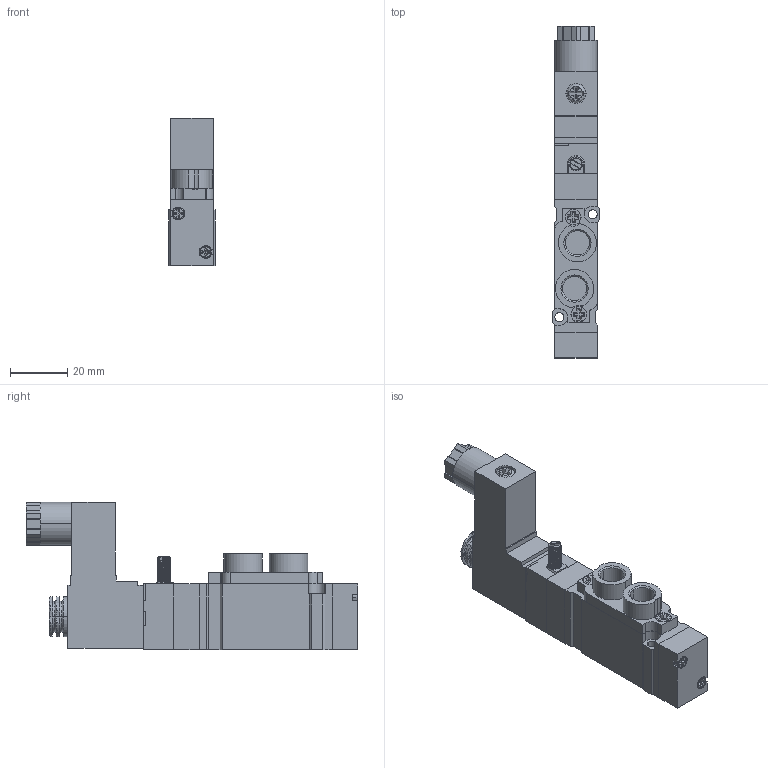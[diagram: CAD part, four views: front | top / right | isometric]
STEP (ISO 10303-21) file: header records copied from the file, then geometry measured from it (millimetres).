
FILE_DESCRIPTION(('STEP AP214'),'1');
FILE_NAME('V20E140V2.stp','2020-09-08T14:10:28',(' '),(' '),'Spatial InterOp 3D',' ',' ');
FILE_SCHEMA(('automotive_design'));
Length unit declared in the file: millimetre
Products named in the file (7): V20E140V2; V20-6; V20-5; V20-1; V20-4; V20-2; V20-3
Assembly tree (6 placements, depth 2):
  V20E140V2
    V20-6
    V20-5
    V20-1
    V20-4
    V20-2
    V20-3
Bounding box: 16.2 x 116.1 x 51.5 mm (x, y, z)
Volume: 43489.5 mm3; surface area: 22318.3 mm2
Topology: 12 solids, 12 shells, 704 faces, 1832 edges, 1184 vertices
Faces by surface type: plane 417, cylinder 214, cone 49, torus 22, bspline 2
Entity records: 35973 total; most frequent: CARTESIAN_POINT 12694, ORIENTED_EDGE 3664, DIRECTION 3589, EDGE_CURVE 1832, AXIS2_PLACEMENT_3D 1204, VERTEX_POINT 1184, LINE 1181, VECTOR 1181
